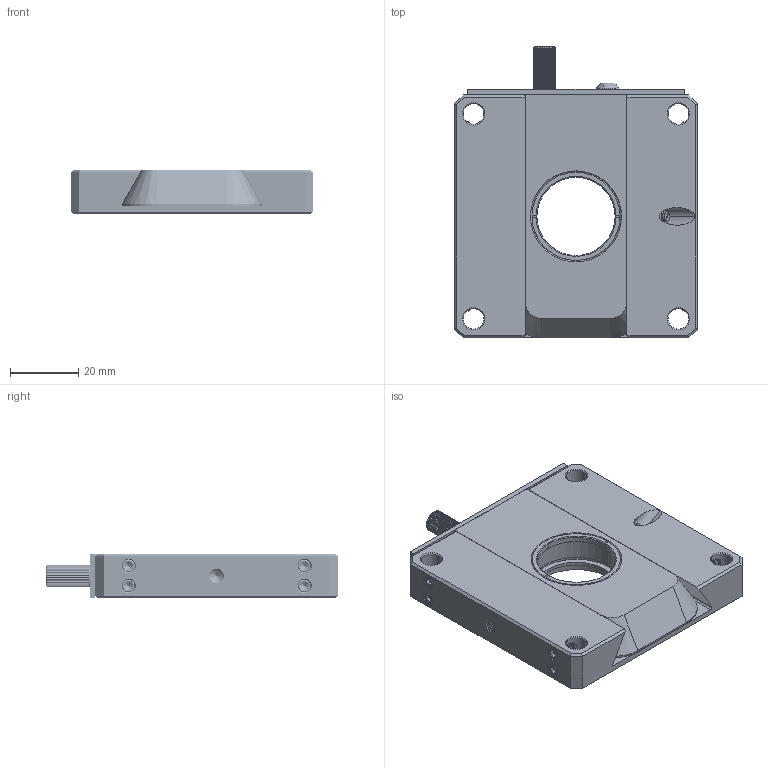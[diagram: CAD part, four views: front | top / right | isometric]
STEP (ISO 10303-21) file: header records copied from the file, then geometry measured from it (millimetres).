
FILE_DESCRIPTION((''),'2;1');
FILE_NAME('CFH60T-0001_ASM','2026-07-07T11:41:21',('R&D'),(''),'CREO PARAMETRIC BY PTC INC, 2021063','CREO PARAMETRIC BY PTC INC, 2021063','');
FILE_SCHEMA(('CONFIG_CONTROL_DESIGN'));
Products named in the file (19): CFH60T-0001-A2; CFH60T-0001-A3; CFH60T-0001-A4; CFH60T-0001-A5; CFH60T-0001-A6; CFH60T-0001-A7; CFH60T-0001-A8; CFH60T-0001-A9; CFH60T-0001-B1; CFH60T-0001-B2; CFH60T-0001-B3; CFH60T-0001-B4; CFH60T-0001-B5; CFH60T-0001-B6; CFH60T-0001-B7; CFH60T-0001-B8; CFH60T-0001-B9; CFH60T-0001-A1_ASM; CFH60T-0001_ASM
Assembly tree (18 placements, depth 3):
  CFH60T-0001_ASM
    CFH60T-0001-A1_ASM
      CFH60T-0001-A2
      CFH60T-0001-A3
      CFH60T-0001-A4
      CFH60T-0001-A5
      CFH60T-0001-A6
      CFH60T-0001-A7
      CFH60T-0001-A8
      CFH60T-0001-A9
      CFH60T-0001-B1
      CFH60T-0001-B2
      CFH60T-0001-B3
      CFH60T-0001-B4
      CFH60T-0001-B5
      CFH60T-0001-B6
      CFH60T-0001-B7
      CFH60T-0001-B8
      CFH60T-0001-B9
Bounding box: 71.12 x 85.42 x 12.7 mm (x, y, z)
Volume: 55835.5 mm3; surface area: 28306.7 mm2
Topology: 16 solids, 16 shells, 1317 faces, 3646 edges, 2311 vertices
Faces by surface type: cylinder 525, bspline 325, plane 267, cone 178, torus 16, sphere 6
Entity records: 154593 total; most frequent: CARTESIAN_POINT 125291, ORIENTED_EDGE 7176, DIRECTION 4219, EDGE_CURVE 3588, VERTEX_POINT 2311, B_SPLINE_CURVE_WITH_KNOTS 1942, AXIS2_PLACEMENT_3D 1527, EDGE_LOOP 1377
